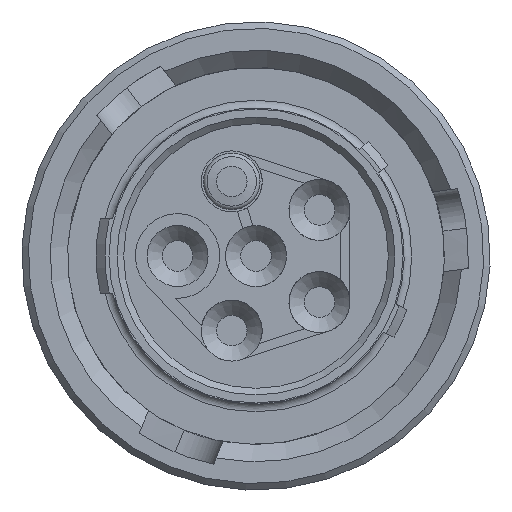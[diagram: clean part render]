
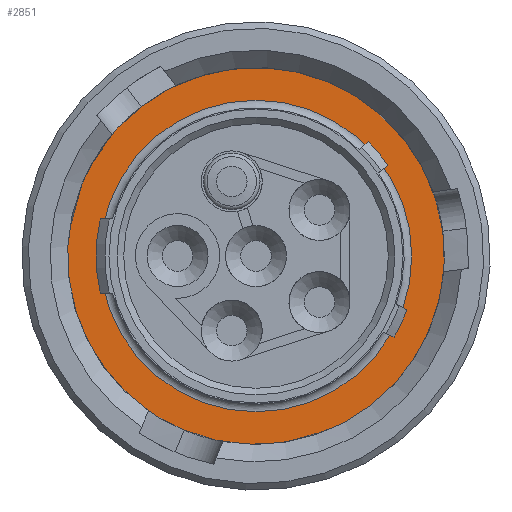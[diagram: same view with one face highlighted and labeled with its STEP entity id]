
A CAD part, left-side view. The second image highlights one B-rep face of the part: STEP entity #2851.
In plain terms, the highlighted planar face has unit normal (-1, 0, 0).
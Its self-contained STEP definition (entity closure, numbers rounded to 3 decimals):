
#39=FACE_BOUND('',#574,.T.);
#76=PLANE('',#3196);
#390=FACE_OUTER_BOUND('',#573,.T.);
#573=EDGE_LOOP('',(#2577));
#574=EDGE_LOOP('',(#2578));
#1049=CIRCLE('',#3017,3.575);
#1099=CIRCLE('',#3087,4.325);
#1236=VERTEX_POINT('',#4346);
#1330=VERTEX_POINT('',#4869);
#1541=EDGE_CURVE('',#1236,#1236,#1049,.T.);
#1654=EDGE_CURVE('',#1330,#1330,#1099,.T.);
#2577=ORIENTED_EDGE('',*,*,#1654,.F.);
#2578=ORIENTED_EDGE('',*,*,#1541,.T.);
#2851=ADVANCED_FACE('',(#390,#39),#76,.F.);
#3017=AXIS2_PLACEMENT_3D('',#4347,#3530,#3531);
#3087=AXIS2_PLACEMENT_3D('',#4871,#3705,#3706);
#3196=AXIS2_PLACEMENT_3D('',#5550,#4005,#4006);
#3530=DIRECTION('center_axis',(1.,0.,0.));
#3531=DIRECTION('ref_axis',(0.,0.,-1.));
#3705=DIRECTION('center_axis',(1.,0.,0.));
#3706=DIRECTION('ref_axis',(0.,0.,-1.));
#4005=DIRECTION('center_axis',(1.,0.,0.));
#4006=DIRECTION('ref_axis',(0.,0.,-1.));
#4346=CARTESIAN_POINT('',(6.2,0.,3.575));
#4347=CARTESIAN_POINT('Origin',(6.2,0.,0.));
#4869=CARTESIAN_POINT('',(6.2,3.997,1.651));
#4871=CARTESIAN_POINT('Origin',(6.2,0.,0.));
#5550=CARTESIAN_POINT('Origin',(6.2,0.,0.));
